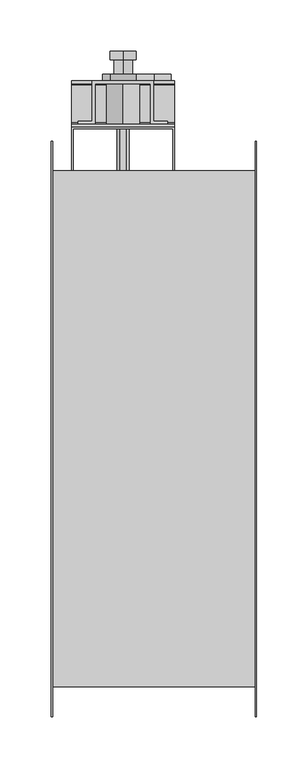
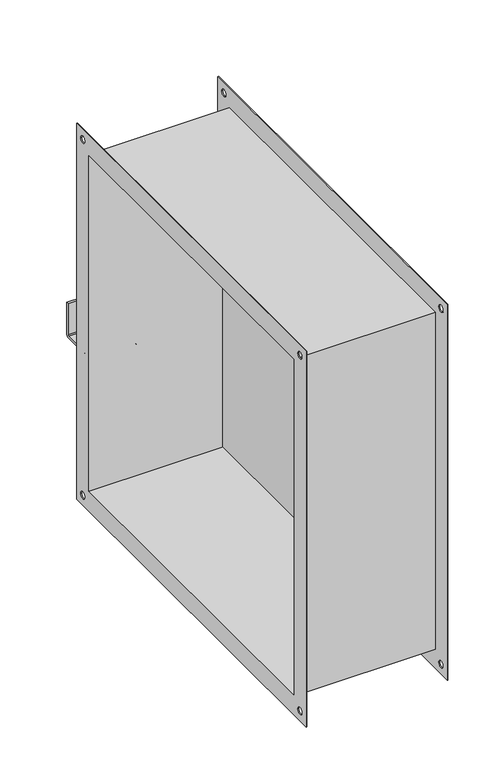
"""IFC4 building model written with IfcOpenShell, lengths in millimetres: damper geometry, СВ_КлапанПротивопожарный_КДМ-2М-3_НЗ_КанальныйПрямоугольный_СВОК : КДМ-2М_Привод ЭМ."""

from ifc_helpers import new_model, si_unit, frame, origin, place, context, project, spatial, polyline, circle_curve, outline, extrude, source, transform, mapped, element, save
from ifc_brep_helpers import plane_surface, cylinder_surface, revolved_surface, advanced_brep


def damper_f3751903(model_context):
    return source(origin(), model_context, "Body", "SolidModel", [
        extrude(outline(polyline([(88.8, -250.0), (88.8, 250.0), (90.0, 250.0), (90.0, -250.0), (88.8, -250.0)])), frame((0.0, 0.0, -250.0), z_axis=(0.0, 0.0, 1.0), x_axis=(1.0, 0.0, 0.0)), (0.0, 0.0, 1.0), 500.0),
        extrude(outline(polyline([(-78.8298911, 251.2), (-80.0298911, 251.2), (-80.0298911, 293.2), (20.0, 293.2), (20.0, 251.2), (18.8, 251.2), (18.8, 292.0), (-78.8298911, 292.0), (-78.8298911, 251.2)])), frame((0.0, 0.0, -80.0), z_axis=(0.0, 0.0, 1.0), x_axis=(1.0, 0.0, 0.0)), (0.0, 0.0, 1.0), 162.5),
        advanced_brep(
        [(-30.0, 367.2, 65.8717586), (-30.0, 367.2, 53.0), (-30.0, 367.2, 40.1282414), (-30.0, 359.322975, 65.8717586), (-30.0, 359.322975, 40.1282414), (-30.0, 359.322975, 62.0972194), (-30.0, 359.322975, 43.9027806), (-30.0, 345.2, 62.0972194), (-30.0, 345.2, 43.9027806), (-30.0, 345.2, 53.0)],
        [
            (0, 1),
            (1, 2),
            (2, 0, circle_curve(frame((-30.0, 367.2, 53.0), z_axis=(0.0, 1.0, 0.0), x_axis=(0.0, 0.0, -1.0)), 12.8717586)),
            (0, 2, circle_curve(frame((-30.0, 367.2, 53.0), z_axis=(0.0, 1.0, 0.0), x_axis=(0.0, 0.0, -1.0)), 12.8717586)),
            (3, 0),
            (2, 4),
            (4, 3, circle_curve(frame((-30.0, 359.322975, 53.0), z_axis=(0.0, 1.0, 0.0), x_axis=(0.0, 0.0, -1.0)), 12.8717586)),
            (3, 4, circle_curve(frame((-30.0, 359.322975, 53.0), z_axis=(0.0, 1.0, 0.0), x_axis=(0.0, 0.0, -1.0)), 12.8717586)),
            (5, 3),
            (4, 6),
            (6, 5, circle_curve(frame((-30.0, 359.322975, 53.0), z_axis=(0.0, 1.0, 0.0), x_axis=(0.0, 0.0, -1.0)), 9.0972194)),
            (5, 6, circle_curve(frame((-30.0, 359.322975, 53.0), z_axis=(0.0, 1.0, 0.0), x_axis=(0.0, 0.0, -1.0)), 9.0972194)),
            (7, 5),
            (6, 8),
            (8, 7, circle_curve(frame((-30.0, 345.2, 53.0), z_axis=(0.0, 1.0, 0.0), x_axis=(0.0, 0.0, -1.0)), 9.0972194)),
            (7, 8, circle_curve(frame((-30.0, 345.2, 53.0), z_axis=(0.0, 1.0, 0.0), x_axis=(0.0, 0.0, -1.0)), 9.0972194)),
            (9, 7),
            (8, 9),
        ],
        [
            plane_surface(frame((-30.0, 367.2, 53.0), z_axis=(0.0, 1.0, 0.0), x_axis=(0.0, 0.0, -1.0))),
            cylinder_surface(frame((-30.0, 345.2, 53.0), z_axis=(0.0, -1.0, 0.0), x_axis=(0.0, 0.0, -1.0)), 12.8717586),
            plane_surface(frame((-30.0, 359.322975, 53.0), z_axis=(0.0, -1.0, 0.0), x_axis=(0.0, 0.0, -1.0))),
            cylinder_surface(frame((-30.0, 345.2, 53.0), z_axis=(0.0, -1.0, 0.0), x_axis=(0.0, 0.0, -1.0)), 9.0972194),
            plane_surface(frame((-30.0, 345.2, 53.0), z_axis=(0.0, -1.0, 0.0), x_axis=(0.0, 0.0, -1.0))),
        ],
        [
            (0, [[1, 2, 3]]),
            (0, [[-2, -1, 4]]),
            (1, [[5, -3, 6, 7]]),
            (1, [[-6, -4, -5, 8]]),
            (2, [[9, -7, 10, 11]]),
            (2, [[-10, -8, -9, 12]]),
            (3, [[13, -11, 14, 15]]),
            (3, [[-14, -12, -13, 16]]),
            (4, [[17, -15, 18]]),
            (4, [[-18, -16, -17]]),
        ],
    ),
        advanced_brep(
        [(-60.37371, 338.6632523, 70.900028), (-60.37371, 299.2, 70.900028), (-73.9362537, 299.2, 70.900028), (-73.9362537, 296.2, 70.900028), (-57.37371, 296.2, 70.900028), (-57.37371, 335.6632523, 70.900028), (-30.37371, 335.6632523, 70.900028), (-3.37371, 335.6632523, 70.900028), (-3.37371, 296.2, 70.900028), (13.1888336, 296.2, 70.900028), (13.1888336, 299.2, 70.900028), (-0.37371, 299.2, 70.900028), (-0.37371, 338.6632523, 70.900028), (-60.37371, 338.6632523, 35.2906263), (-42.4468236, 338.6632523, 35.2906263), (-30.37371, 338.6632523, 35.2906263), (-17.5531764, 338.6632523, 35.2906263), (-0.37371, 338.6632523, 35.2906263), (-0.37371, 299.2, 35.2906263), (13.1888336, 299.2, 35.2906263), (13.1888336, 296.2, 35.2906263), (-3.37371, 296.2, 35.2906263), (-3.37371, 335.6632523, 35.2906263), (-30.37371, 335.6632523, 35.2906263), (-57.37371, 335.6632523, 35.2906263), (-57.37371, 296.2, 35.2906263), (-73.9362537, 296.2, 35.2906263), (-73.9362537, 299.2, 35.2906263), (-60.37371, 299.2, 35.2906263), (-30.37371, 335.6632523, 68.9846504), (-30.0, 335.6632523, 68.9890183), (-30.0, 335.6632523, 37.0109817), (-30.37371, 335.6632523, 37.0153496), (-42.4468236, 345.2, 53.0), (-17.5531764, 345.2, 53.0), (-17.5531764, 345.2, 3.0), (-22.3466574, 345.2, 3.0), (-22.3466574, 345.2, -19.7841255), (0.2857987, 345.2, -42.6282215), (16.7904973, 345.2, -42.6282215), (16.7904973, 345.2, -50.5836838), (-21.6781206, 345.2, -68.1864324), (-42.4468236, 345.2, -34.345078), (-38.4852814, 345.2, -50.0), (-35.9954463, 345.2, -52.4898351), (-35.9954463, 345.2, -55.9954463), (-32.4898351, 345.2, -55.9954463), (-30.0, 345.2, -58.4852814), (-27.5101649, 345.2, -55.9954463), (-24.0045537, 345.2, -55.9954463), (-24.0045537, 345.2, -52.4898351), (-21.5147186, 345.2, -50.0), (-24.0045537, 345.2, -47.5101649), (-24.0045537, 345.2, -44.0045537), (-27.5101649, 345.2, -44.0045537), (-30.0, 345.2, -41.5147186), (-32.4898351, 345.2, -44.0045537), (-35.9954463, 345.2, -44.0045537), (-35.9954463, 345.2, -47.5101649), (-17.5531764, 338.6632523, 3.0), (-42.4468236, 338.6632523, -29.3568384), (-6.6455014, 338.6632523, -29.3568384), (-22.3466574, 338.6632523, -19.7841255), (-22.3466574, 338.6632523, 3.0), (-42.4468236, 338.6632523, 53.0), (-17.5531764, 338.6632523, 53.0), (-21.6781206, 338.6632523, -68.1864324), (-42.4468236, 338.6632523, -34.345078), (16.7904973, 338.6632523, -42.6282215), (16.7904973, 338.6632523, -50.5836838), (0.2857987, 338.6632523, -42.6282215), (-30.0, 335.6632523, -65.9890183), (-30.0, 335.6632523, -34.0109817), (-30.0, 296.2, -34.0109817), (-30.0, 296.2, -65.9890183), (-30.0, 296.2, 37.0109817), (-30.0, 296.2, 68.9890183), (20.0, 293.2, -75.5), (20.0, 297.7, -80.0), (20.0, 334.1337407, -80.0), (20.0, 338.6632523, -75.4704884), (20.0, 338.6632523, -29.3568384), (20.0, 335.6632523, -29.3568384), (20.0, 335.6632523, -75.4704884), (20.0, 334.1337407, -77.0), (20.0, 297.7, -77.0), (20.0, 296.2, -75.5), (20.0, 296.2, 82.5), (20.0, 293.2, 82.5), (-80.0, 293.2, -75.5), (-80.0, 293.2, 82.5), (-80.0, 296.2, 82.5), (-80.0, 296.2, -75.5), (-80.0, 297.7, -77.0), (-80.0, 334.1337407, -77.0), (-80.0, 335.6632523, -75.4704884), (-80.0, 335.6632523, -29.3568384), (-80.0, 338.6632523, -29.3568384), (-80.0, 338.6632523, -75.4704884), (-80.0, 334.1337407, -80.0), (-80.0, 297.7, -80.0), (-35.9954463, 293.2, -47.5101649), (-35.9954463, 293.2, -44.0045537), (-32.4898351, 293.2, -44.0045537), (-30.0, 293.2, -41.5147186), (-27.5101649, 293.2, -44.0045537), (-24.0045537, 293.2, -44.0045537), (-24.0045537, 293.2, -47.5101649), (-21.5147186, 293.2, -50.0), (-24.0045537, 293.2, -52.4898351), (-24.0045537, 293.2, -55.9954463), (-27.5101649, 293.2, -55.9954463), (-30.0, 293.2, -58.4852814), (-32.4898351, 293.2, -55.9954463), (-35.9954463, 293.2, -55.9954463), (-35.9954463, 293.2, -52.4898351), (-38.4852814, 293.2, -50.0)],
        [
            (0, 1),
            (1, 2),
            (2, 3),
            (3, 4),
            (4, 5),
            (5, 6),
            (6, 7),
            (7, 8),
            (8, 9),
            (9, 10),
            (10, 11),
            (11, 12),
            (12, 0),
            (13, 14),
            (14, 15),
            (15, 16),
            (16, 17),
            (17, 18),
            (18, 19),
            (19, 20),
            (20, 21),
            (21, 22),
            (22, 23),
            (23, 24),
            (24, 25),
            (25, 26),
            (26, 27),
            (27, 28),
            (28, 13),
            (11, 18),
            (17, 12),
            (10, 19),
            (9, 20),
            (7, 22),
            (21, 8),
            (6, 29),
            (29, 30, circle_curve(frame((-30.0, 335.6632523, 53.0), z_axis=(0.0, 1.0, 0.0), x_axis=(0.0, 0.0, 1.0)), 15.9890183)),
            (30, 31, circle_curve(frame((-30.0, 335.6632523, 53.0), z_axis=(0.0, 1.0, 0.0), x_axis=(0.0, 0.0, 1.0)), 15.9890183)),
            (31, 32, circle_curve(frame((-30.0, 335.6632523, 53.0), z_axis=(0.0, 1.0, 0.0), x_axis=(0.0, 0.0, 1.0)), 15.9890183)),
            (32, 23),
            (5, 24),
            (32, 29, circle_curve(frame((-30.0, 335.6632523, 53.0), z_axis=(0.0, 1.0, 0.0), x_axis=(0.0, 0.0, 1.0)), 15.9890183)),
            (4, 25),
            (2, 27),
            (26, 3),
            (1, 28),
            (0, 13),
            (33, 34, circle_curve(frame((-30.0, 345.2, 53.0), z_axis=(0.0, 1.0, 0.0), x_axis=(0.0, 0.0, 1.0)), 12.4468236)),
            (34, 35),
            (35, 36),
            (36, 37),
            (37, 38, circle_curve(frame((-30.0, 345.2, -50.0), z_axis=(0.0, 1.0, 0.0), x_axis=(0.0, 0.0, 1.0)), 31.1700613)),
            (38, 39),
            (39, 40),
            (40, 41),
            (41, 42, circle_curve(frame((-30.0, 345.2, -50.0), z_axis=(0.0, 1.0, 0.0), x_axis=(0.0, 0.0, 1.0)), 20.0)),
            (42, 33),
            (43, 44),
            (44, 45),
            (45, 46),
            (46, 47),
            (47, 48),
            (48, 49),
            (49, 50),
            (50, 51),
            (51, 52),
            (52, 53),
            (53, 54),
            (54, 55),
            (55, 56),
            (56, 57),
            (57, 58),
            (58, 43),
            (59, 16),
            (14, 60),
            (60, 61),
            (61, 62, circle_curve(frame((-30.0, 338.6632523, -50.0), z_axis=(0.0, -1.0, 0.0), x_axis=(0.0, 0.0, 1.0)), 31.1700613)),
            (62, 63),
            (63, 59),
            (33, 64),
            (64, 65, circle_curve(frame((-30.0, 338.6632523, 53.0), z_axis=(0.0, 1.0, 0.0), x_axis=(0.0, 0.0, 1.0)), 12.4468236)),
            (65, 34),
            (41, 66),
            (66, 67, circle_curve(frame((-30.0, 338.6632523, -50.0), z_axis=(0.0, 1.0, 0.0), x_axis=(0.0, 0.0, 1.0)), 20.0)),
            (67, 42),
            (67, 60),
            (14, 64),
            (39, 68),
            (68, 69),
            (69, 40),
            (38, 70),
            (70, 68),
            (37, 62),
            (61, 70, circle_curve(frame((-30.0, 338.6632523, -50.0), z_axis=(0.0, 1.0, 0.0), x_axis=(0.0, 0.0, 1.0)), 31.1700613)),
            (36, 63),
            (35, 59),
            (65, 16),
            (71, 72, circle_curve(frame((-30.0, 335.6632523, -50.0), z_axis=(0.0, -1.0, 0.0), x_axis=(0.0, 0.0, 1.0)), 15.9890183)),
            (72, 73),
            (73, 74, circle_curve(frame((-30.0, 296.2, -50.0), z_axis=(0.0, 1.0, 0.0), x_axis=(0.0, 0.0, 1.0)), 15.9890183)),
            (74, 71),
            (74, 73, circle_curve(frame((-30.0, 296.2, -50.0), z_axis=(0.0, 1.0, 0.0), x_axis=(0.0, 0.0, 1.0)), 15.9890183)),
            (72, 71, circle_curve(frame((-30.0, 335.6632523, -50.0), z_axis=(0.0, -1.0, 0.0), x_axis=(0.0, 0.0, 1.0)), 15.9890183)),
            (75, 31),
            (30, 76),
            (76, 75, circle_curve(frame((-30.0, 296.2, 53.0), z_axis=(0.0, 1.0, 0.0), x_axis=(0.0, 0.0, 1.0)), 15.9890183)),
            (75, 76, circle_curve(frame((-30.0, 296.2, 53.0), z_axis=(0.0, 1.0, 0.0), x_axis=(0.0, 0.0, 1.0)), 15.9890183)),
            (77, 78, circle_curve(frame((20.0, 297.7, -75.5), z_axis=(1.0, 0.0, 0.0), x_axis=(0.0, 0.0, 1.0)), 4.5)),
            (78, 79),
            (79, 80, circle_curve(frame((20.0, 334.1337407, -75.4704884), z_axis=(1.0, 0.0, 0.0), x_axis=(0.0, 0.0, 1.0)), 4.5295116)),
            (80, 81),
            (81, 82),
            (82, 83),
            (83, 84, circle_curve(frame((20.0, 334.1337407, -75.4704884), z_axis=(-1.0, 0.0, 0.0), x_axis=(0.0, 0.0, 1.0)), 1.5295116)),
            (84, 85),
            (85, 86, circle_curve(frame((20.0, 297.7, -75.5), z_axis=(-1.0, 0.0, 0.0), x_axis=(0.0, 0.0, 1.0)), 1.5)),
            (86, 87),
            (87, 88),
            (88, 77),
            (89, 90),
            (90, 91),
            (91, 92),
            (92, 93, circle_curve(frame((-80.0, 297.7, -75.5), z_axis=(1.0, 0.0, 0.0), x_axis=(0.0, 0.0, 1.0)), 1.5)),
            (93, 94),
            (94, 95, circle_curve(frame((-80.0, 334.1337407, -75.4704884), z_axis=(1.0, 0.0, 0.0), x_axis=(0.0, 0.0, 1.0)), 1.5295116)),
            (95, 96),
            (96, 97),
            (97, 98),
            (98, 99, circle_curve(frame((-80.0, 334.1337407, -75.4704884), z_axis=(-1.0, 0.0, 0.0), x_axis=(0.0, 0.0, 1.0)), 4.5295116)),
            (99, 100),
            (100, 89, circle_curve(frame((-80.0, 297.7, -75.5), z_axis=(-1.0, 0.0, 0.0), x_axis=(0.0, 0.0, 1.0)), 4.5)),
            (88, 90),
            (89, 77),
            (101, 102),
            (102, 103),
            (103, 104),
            (104, 105),
            (105, 106),
            (106, 107),
            (107, 108),
            (108, 109),
            (109, 110),
            (110, 111),
            (111, 112),
            (112, 113),
            (113, 114),
            (114, 115),
            (115, 116),
            (116, 101),
            (87, 91),
            (86, 92),
            (85, 93),
            (84, 94),
            (83, 95),
            (82, 96),
            (81, 61),
            (60, 97),
            (80, 98),
            (66, 69),
            (79, 99),
            (78, 100),
            (116, 43),
            (58, 101),
            (115, 44),
            (114, 45),
            (113, 46),
            (112, 47),
            (111, 48),
            (110, 49),
            (109, 50),
            (108, 51),
            (107, 52),
            (106, 53),
            (105, 54),
            (104, 55),
            (103, 56),
            (102, 57),
        ],
        [
            plane_surface(frame((-60.37371, 338.6632523, 70.900028), z_axis=(0.0, 0.0, 1.0), x_axis=(1.0, 0.0, 0.0))),
            plane_surface(frame((-60.37371, 338.6632523, 35.2906263), z_axis=(0.0, 0.0, -1.0), x_axis=(-1.0, 0.0, 0.0))),
            plane_surface(frame((-0.37371, 338.6632523, 70.900028), z_axis=(1.0, 0.0, 0.0), x_axis=(0.0, 0.0, -1.0))),
            plane_surface(frame((-0.37371, 299.2, 70.900028), z_axis=(0.0, 1.0, 0.0), x_axis=(0.0, 0.0, -1.0))),
            plane_surface(frame((13.1888336, 299.2, 70.900028), z_axis=(1.0, 0.0, 0.0), x_axis=(0.0, 0.0, -1.0))),
            plane_surface(frame((-3.37371, 296.2, 70.900028), z_axis=(-1.0, 0.0, 0.0), x_axis=(0.0, 0.0, -1.0))),
            plane_surface(frame((-3.37371, 335.6632523, 70.900028), z_axis=(0.0, -1.0, 0.0), x_axis=(0.0, 0.0, -1.0))),
            plane_surface(frame((-30.37371, 335.6632523, 70.900028), z_axis=(0.0, -1.0, 0.0), x_axis=(0.0, 0.0, -1.0))),
            plane_surface(frame((-57.37371, 335.6632523, 70.900028), z_axis=(1.0, 0.0, 0.0), x_axis=(0.0, 0.0, -1.0))),
            plane_surface(frame((-73.9362537, 296.2, 70.900028), z_axis=(-1.0, 0.0, 0.0), x_axis=(0.0, 0.0, -1.0))),
            plane_surface(frame((-73.9362537, 299.2, 70.900028), z_axis=(0.0, 1.0, 0.0), x_axis=(0.0, 0.0, -1.0))),
            plane_surface(frame((-60.37371, 299.2, 70.900028), z_axis=(-1.0, 0.0, 0.0), x_axis=(0.0, 0.0, -1.0))),
            plane_surface(frame((-42.4468236, 345.2, 53.0), z_axis=(0.0, 1.0, 0.0), x_axis=(0.0, 0.0, -1.0))),
            plane_surface(frame((-42.4468236, 338.6632523, 53.0), z_axis=(0.0, -1.0, 0.0), x_axis=(0.0, 0.0, 1.0))),
            cylinder_surface(frame((-30.0, 338.6632523, 53.0), z_axis=(0.0, 1.0, 0.0), x_axis=(0.0, 0.0, 1.0)), 12.4468236),
            cylinder_surface(frame((-30.0, 338.6632523, -50.0), z_axis=(0.0, 1.0, 0.0), x_axis=(0.0, 0.0, 1.0)), 20.0),
            plane_surface(frame((-42.4468236, 345.2, 53.0), z_axis=(-1.0, 0.0, 0.0), x_axis=(0.0, -1.0, 0.0))),
            plane_surface(frame((16.7904973, 345.2, -50.5836838), z_axis=(1.0, 0.0, 0.0), x_axis=(0.0, -1.0, 0.0))),
            plane_surface(frame((16.7904973, 345.2, -42.6282215), z_axis=(0.0, 0.0, 1.0), x_axis=(0.0, -1.0, 0.0))),
            cylinder_surface(frame((-30.0, 338.6632523, -50.0), z_axis=(0.0, 1.0, 0.0), x_axis=(0.0, 0.0, 1.0)), 31.1700613),
            plane_surface(frame((-22.3466574, 345.2, -19.7841255), z_axis=(1.0, 0.0, 0.0), x_axis=(0.0, -1.0, 0.0))),
            plane_surface(frame((-22.3466574, 345.2, 3.0), z_axis=(0.0, 0.0, -1.0), x_axis=(0.0, -1.0, 0.0))),
            plane_surface(frame((-17.5531764, 345.2, 3.0), z_axis=(1.0, 0.0, 0.0), x_axis=(0.0, -1.0, 0.0))),
            plane_surface(frame((-30.0, 338.6632523, -34.0109817), z_axis=(0.0, 1.0, 0.0), x_axis=(-1.0, 0.0, 0.0))),
            cylinder_surface(frame((-30.0, 296.2, -50.0), z_axis=(0.0, 1.0, 0.0), x_axis=(0.0, 0.0, 1.0)), 15.9890183),
            cylinder_surface(frame((-30.0, 251.2, 53.0), z_axis=(0.0, 1.0, 0.0), x_axis=(0.0, 0.0, 1.0)), 15.9890183),
            plane_surface(frame((20.0, 293.2, 82.5), z_axis=(1.0, 0.0, 0.0), x_axis=(0.0, 0.0, 1.0))),
            plane_surface(frame((-80.0, 293.2, 82.5), z_axis=(-1.0, 0.0, 0.0), x_axis=(0.0, 0.0, -1.0))),
            plane_surface(frame((20.0, 293.2, -75.5), z_axis=(0.0, -1.0, 0.0), x_axis=(-1.0, 0.0, 0.0))),
            plane_surface(frame((20.0, 293.2, 82.5), z_axis=(0.0, 0.0, 1.0), x_axis=(-1.0, 0.0, 0.0))),
            plane_surface(frame((20.0, 296.2, 82.5), z_axis=(0.0, 1.0, 0.0), x_axis=(-1.0, 0.0, 0.0))),
            revolved_surface(polyline([(-80.0, 297.7, -74.0), (20.0, 297.7, -74.0)]), (-80.0, 297.7, -75.5), (-1.0, 0.0, 0.0)),
            plane_surface(frame((20.0, 297.7, -77.0), z_axis=(0.0, 0.0, 1.0), x_axis=(-1.0, 0.0, 0.0))),
            revolved_surface(polyline([(-80.0, 334.1337407, -73.94097679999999), (20.0, 334.1337407, -73.94097679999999)]), (-80.0, 334.1337407, -75.4704884), (-1.0, 0.0, 0.0)),
            plane_surface(frame((20.0, 335.6632523, -75.4704884), z_axis=(0.0, -1.0, 0.0), x_axis=(-1.0, 0.0, 0.0))),
            plane_surface(frame((20.0, 335.6632523, -29.3568384), z_axis=(0.0, 0.0, 1.0), x_axis=(-1.0, 0.0, 0.0))),
            plane_surface(frame((20.0, 338.6632523, -29.3568384), z_axis=(0.0, 1.0, 0.0), x_axis=(-1.0, 0.0, 0.0))),
            cylinder_surface(frame((-80.0, 334.1337407, -75.4704884), z_axis=(1.0, 0.0, 0.0), x_axis=(0.0, 0.0, 1.0)), 4.5295116),
            plane_surface(frame((20.0, 334.1337407, -80.0), z_axis=(0.0, 0.0, -1.0), x_axis=(-1.0, 0.0, 0.0))),
            cylinder_surface(frame((-80.0, 297.7, -75.5), z_axis=(1.0, 0.0, 0.0), x_axis=(0.0, 0.0, 1.0)), 4.5),
            plane_surface(frame((-21.6781206, 345.2, -68.1864324), z_axis=(0.41609396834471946, 0.0, -0.909321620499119), x_axis=(0.0, -1.0, 0.0))),
            plane_surface(frame((-35.9954463, 351.2, -47.5101649), z_axis=(0.7071067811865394, 0.0, -0.7071067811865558), x_axis=(0.0, -1.0, 0.0))),
            plane_surface(frame((-38.4852814, 351.2, -50.0), z_axis=(0.7071067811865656, 0.0, 0.7071067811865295), x_axis=(0.0, -1.0, 0.0))),
            plane_surface(frame((-35.9954463, 351.2, -52.4898351), z_axis=(1.0, 0.0, 0.0), x_axis=(0.0, -1.0, 0.0))),
            plane_surface(frame((-35.9954463, 351.2, -55.9954463), z_axis=(0.0, 0.0, 1.0), x_axis=(0.0, -1.0, 0.0))),
            plane_surface(frame((-32.4898351, 351.2, -55.9954463), z_axis=(0.707106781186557, 0.0, 0.707106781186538), x_axis=(0.0, -1.0, 0.0))),
            plane_surface(frame((-30.0, 351.2, -58.4852814), z_axis=(-0.7071067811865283, 0.0, 0.7071067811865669), x_axis=(0.0, -1.0, 0.0))),
            plane_surface(frame((-27.5101649, 351.2, -55.9954463), z_axis=(0.0, 0.0, 1.0), x_axis=(0.0, -1.0, 0.0))),
            plane_surface(frame((-24.0045537, 351.2, -55.9954463), z_axis=(-1.0, 0.0, 0.0), x_axis=(0.0, -1.0, 0.0))),
            plane_surface(frame((-24.0045537, 351.2, -52.4898351), z_axis=(-0.7071067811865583, 0.0, 0.7071067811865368), x_axis=(0.0, -1.0, 0.0))),
            plane_surface(frame((-21.5147186, 351.2, -50.0), z_axis=(-0.7071067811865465, 0.0, -0.7071067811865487), x_axis=(0.0, -1.0, 0.0))),
            plane_surface(frame((-24.0045537, 351.2, -47.5101649), z_axis=(-1.0, 0.0, 0.0), x_axis=(0.0, -1.0, 0.0))),
            plane_surface(frame((-24.0045537, 351.2, -44.0045537), z_axis=(0.0, 0.0, -1.0), x_axis=(0.0, -1.0, 0.0))),
            plane_surface(frame((-27.5101649, 351.2, -44.0045537), z_axis=(-0.7071067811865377, 0.0, -0.7071067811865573), x_axis=(0.0, -1.0, 0.0))),
            plane_surface(frame((-30.0, 351.2, -41.5147186), z_axis=(0.7071067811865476, 0.0, -0.7071067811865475), x_axis=(0.0, -1.0, 0.0))),
            plane_surface(frame((-32.4898351, 351.2, -44.0045537), z_axis=(0.0, 0.0, -1.0), x_axis=(0.0, -1.0, 0.0))),
            plane_surface(frame((-35.9954463, 351.2, -44.0045537), z_axis=(1.0, 0.0, 0.0), x_axis=(0.0, -1.0, 0.0))),
        ],
        [
            (0, [[1, 2, 3, 4, 5, 6, 7, 8, 9, 10, 11, 12, 13]]),
            (1, [[14, 15, 16, 17, 18, 19, 20, 21, 22, 23, 24, 25, 26, 27, 28, 29]]),
            (2, [[30, -18, 31, -12]]),
            (3, [[32, -19, -30, -11]]),
            (4, [[33, -20, -32, -10]]),
            (5, [[34, -22, 35, -8]]),
            (6, [[36, 37, 38, 39, 40, -23, -34, -7]]),
            (7, [[41, -24, -40, 42, -36, -6]]),
            (8, [[43, -25, -41, -5]]),
            (9, [[44, -27, 45, -3]]),
            (10, [[46, -28, -44, -2]]),
            (11, [[47, -29, -46, -1]]),
            (12, [[48, 49, 50, 51, 52, 53, 54, 55, 56, 57], [58, 59, 60, 61, 62, 63, 64, 65, 66, 67, 68, 69, 70, 71, 72, 73]]),
            (13, [[74, -16, -15, 75, 76, 77, 78, 79]]),
            (14, [[80, 81, 82, -48]]),
            (15, [[83, 84, 85, -56]]),
            (16, [[-85, 86, -75, 87, -80, -57]]),
            (17, [[88, 89, 90, -54]]),
            (18, [[91, 92, -88, -53]]),
            (19, [[93, -77, 94, -91, -52]]),
            (20, [[95, -78, -93, -51]]),
            (21, [[96, -79, -95, -50]]),
            (22, [[-82, 97, -74, -96, -49]]),
            (23, [[-97, -81, -87, -14, -47, -13, -31, -17]]),
            (24, [[98, 99, 100, 101]]),
            (24, [[102, -99, 103, -101]]),
            (25, [[104, -38, 105, 106]]),
            (25, [[-105, -37, -42, -39, -104, 107]]),
            (26, [[108, 109, 110, 111, 112, 113, 114, 115, 116, 117, 118, 119]]),
            (27, [[120, 121, 122, 123, 124, 125, 126, 127, 128, 129, 130, 131]]),
            (28, [[132, -120, 133, -119], [134, 135, 136, 137, 138, 139, 140, 141, 142, 143, 144, 145, 146, 147, 148, 149]]),
            (29, [[150, -121, -132, -118]]),
            (30, [[151, -122, -150, -117], [-102, -100], [-107, -106], [-35, -21, -33, -9], [-45, -26, -43, -4]]),
            (31, [[152, -123, -151, -116]]),
            (32, [[153, -124, -152, -115]]),
            (33, [[154, -125, -153, -114]]),
            (34, [[155, -126, -154, -113], [-103, -98]]),
            (35, [[156, -76, 157, -127, -155, -112]]),
            (36, [[158, -128, -157, -86, -84, 159, -89, -92, -94, -156, -111]]),
            (37, [[160, -129, -158, -110]]),
            (38, [[161, -130, -160, -109]]),
            (39, [[-133, -131, -161, -108]]),
            (40, [[-90, -159, -83, -55]]),
            (41, [[-149, 162, -73, 163]]),
            (42, [[-148, 164, -58, -162]]),
            (43, [[-147, 165, -59, -164]]),
            (44, [[-146, 166, -60, -165]]),
            (45, [[-145, 167, -61, -166]]),
            (46, [[-144, 168, -62, -167]]),
            (47, [[-143, 169, -63, -168]]),
            (48, [[-142, 170, -64, -169]]),
            (49, [[-141, 171, -65, -170]]),
            (50, [[-140, 172, -66, -171]]),
            (51, [[-139, 173, -67, -172]]),
            (52, [[-138, 174, -68, -173]]),
            (53, [[-137, 175, -69, -174]]),
            (54, [[-136, 176, -70, -175]]),
            (55, [[-135, 177, -71, -176]]),
            (56, [[-72, -177, -134, -163]]),
        ],
    ),
        extrude(outline(polyline([(-44.8167305, -27.0074379), (-44.8167305, -32.9925621), (-50.0, -35.9851241), (-55.1832695, -32.9925621), (-55.1832695, -27.0074379), (-50.0, -24.0148759), (-44.8167305, -27.0074379)])), frame((0.0, 251.2, 0.0), z_axis=(0.0, 1.0, 0.0), x_axis=(0.0, 0.0, 1.0)), (0.0, 0.0, 1.0), 100.0),
        advanced_brep(
        [(98.8, -280.0, 280.0), (98.8, 280.0, 280.0), (98.8, 280.0, -280.0), (98.8, -280.0, -280.0), (98.8, 251.2, 251.2), (98.8, -251.2, 251.2), (98.8, -251.2, -251.2), (98.8, 251.2, -251.2), (98.8, 260.0, 265.0), (98.8, 270.0, 265.0), (98.8, -270.0, 265.0), (98.8, -260.0, 265.0), (98.8, -270.0, -265.0), (98.8, -260.0, -265.0), (98.8, 260.0, -265.0), (98.8, 270.0, -265.0), (100.0, -280.0, 280.0), (100.0, -280.0, -280.0), (100.0, 280.0, -280.0), (100.0, 280.0, 280.0), (100.0, -250.0, 250.0), (100.0, 250.0, 250.0), (100.0, 250.0, -250.0), (100.0, -250.0, -250.0), (100.0, 270.0, 265.0), (100.0, 260.0, 265.0), (100.0, -260.0, 265.0), (100.0, -270.0, 265.0), (100.0, -260.0, -265.0), (100.0, -270.0, -265.0), (100.0, 270.0, -265.0), (100.0, 260.0, -265.0), (-100.0, -280.0, 280.0), (-100.0, 280.0, 280.0), (-100.0, 280.0, -280.0), (-100.0, -280.0, -280.0), (-100.0, -250.0, 250.0), (-100.0, -250.0, -250.0), (-100.0, 250.0, -250.0), (-100.0, 250.0, 250.0), (-100.0, 260.0, 265.0), (-100.0, 270.0, 265.0), (-100.0, -270.0, 265.0), (-100.0, -260.0, 265.0), (-100.0, -270.0, -265.0), (-100.0, -260.0, -265.0), (-100.0, 260.0, -265.0), (-100.0, 270.0, -265.0), (-98.8, -280.0, 280.0), (-98.8, -280.0, -280.0), (-98.8, 280.0, -280.0), (-98.8, 280.0, 280.0), (-98.8, -251.2, 251.2), (-98.8, 251.2, 251.2), (-98.8, 251.2, -251.2), (-98.8, -251.2, -251.2), (-98.8, 270.0, 265.0), (-98.8, 260.0, 265.0), (-98.8, -260.0, 265.0), (-98.8, -270.0, 265.0), (-98.8, -260.0, -265.0), (-98.8, -270.0, -265.0), (-98.8, 270.0, -265.0), (-98.8, 260.0, -265.0)],
        [
            (0, 1),
            (1, 2),
            (2, 3),
            (3, 0),
            (4, 5),
            (5, 6),
            (6, 7),
            (7, 4),
            (8, 9, circle_curve(frame((98.8, 265.0, 265.0), z_axis=(1.0, 0.0, 0.0), x_axis=(0.0, 1.0, 0.0)), 5.0)),
            (9, 8, circle_curve(frame((98.8, 265.0, 265.0), z_axis=(1.0, 0.0, 0.0), x_axis=(0.0, 1.0, 0.0)), 5.0)),
            (10, 11, circle_curve(frame((98.8, -265.0, 265.0), z_axis=(1.0, 0.0, 0.0), x_axis=(0.0, 1.0, 0.0)), 5.0)),
            (11, 10, circle_curve(frame((98.8, -265.0, 265.0), z_axis=(1.0, 0.0, 0.0), x_axis=(0.0, 1.0, 0.0)), 5.0)),
            (12, 13, circle_curve(frame((98.8, -265.0, -265.0), z_axis=(1.0, 0.0, 0.0), x_axis=(0.0, 1.0, 0.0)), 5.0)),
            (13, 12, circle_curve(frame((98.8, -265.0, -265.0), z_axis=(1.0, 0.0, 0.0), x_axis=(0.0, 1.0, 0.0)), 5.0)),
            (14, 15, circle_curve(frame((98.8, 265.0, -265.0), z_axis=(1.0, 0.0, 0.0), x_axis=(0.0, 1.0, 0.0)), 5.0)),
            (15, 14, circle_curve(frame((98.8, 265.0, -265.0), z_axis=(1.0, 0.0, 0.0), x_axis=(0.0, 1.0, 0.0)), 5.0)),
            (16, 17),
            (17, 18),
            (18, 19),
            (19, 16),
            (20, 21),
            (21, 22),
            (22, 23),
            (23, 20),
            (24, 25, circle_curve(frame((100.0, 265.0, 265.0), z_axis=(-1.0, 0.0, 0.0), x_axis=(0.0, 1.0, 0.0)), 5.0)),
            (25, 24, circle_curve(frame((100.0, 265.0, 265.0), z_axis=(-1.0, 0.0, 0.0), x_axis=(0.0, 1.0, 0.0)), 5.0)),
            (26, 27, circle_curve(frame((100.0, -265.0, 265.0), z_axis=(-1.0, 0.0, 0.0), x_axis=(0.0, 1.0, 0.0)), 5.0)),
            (27, 26, circle_curve(frame((100.0, -265.0, 265.0), z_axis=(-1.0, 0.0, 0.0), x_axis=(0.0, 1.0, 0.0)), 5.0)),
            (28, 29, circle_curve(frame((100.0, -265.0, -265.0), z_axis=(-1.0, 0.0, 0.0), x_axis=(0.0, 1.0, 0.0)), 5.0)),
            (29, 28, circle_curve(frame((100.0, -265.0, -265.0), z_axis=(-1.0, 0.0, 0.0), x_axis=(0.0, 1.0, 0.0)), 5.0)),
            (30, 31, circle_curve(frame((100.0, 265.0, -265.0), z_axis=(-1.0, 0.0, 0.0), x_axis=(0.0, 1.0, 0.0)), 5.0)),
            (31, 30, circle_curve(frame((100.0, 265.0, -265.0), z_axis=(-1.0, 0.0, 0.0), x_axis=(0.0, 1.0, 0.0)), 5.0)),
            (32, 33),
            (33, 34),
            (34, 35),
            (35, 32),
            (36, 37),
            (37, 38),
            (38, 39),
            (39, 36),
            (40, 41, circle_curve(frame((-100.0, 265.0, 265.0), z_axis=(1.0, 0.0, 0.0), x_axis=(0.0, 1.0, 0.0)), 5.0)),
            (41, 40, circle_curve(frame((-100.0, 265.0, 265.0), z_axis=(1.0, 0.0, 0.0), x_axis=(0.0, 1.0, 0.0)), 5.0)),
            (42, 43, circle_curve(frame((-100.0, -265.0, 265.0), z_axis=(1.0, 0.0, 0.0), x_axis=(0.0, 1.0, 0.0)), 5.0)),
            (43, 42, circle_curve(frame((-100.0, -265.0, 265.0), z_axis=(1.0, 0.0, 0.0), x_axis=(0.0, 1.0, 0.0)), 5.0)),
            (44, 45, circle_curve(frame((-100.0, -265.0, -265.0), z_axis=(1.0, 0.0, 0.0), x_axis=(0.0, 1.0, 0.0)), 5.0)),
            (45, 44, circle_curve(frame((-100.0, -265.0, -265.0), z_axis=(1.0, 0.0, 0.0), x_axis=(0.0, 1.0, 0.0)), 5.0)),
            (46, 47, circle_curve(frame((-100.0, 265.0, -265.0), z_axis=(1.0, 0.0, 0.0), x_axis=(0.0, 1.0, 0.0)), 5.0)),
            (47, 46, circle_curve(frame((-100.0, 265.0, -265.0), z_axis=(1.0, 0.0, 0.0), x_axis=(0.0, 1.0, 0.0)), 5.0)),
            (48, 49),
            (49, 50),
            (50, 51),
            (51, 48),
            (52, 53),
            (53, 54),
            (54, 55),
            (55, 52),
            (56, 57, circle_curve(frame((-98.8, 265.0, 265.0), z_axis=(-1.0, 0.0, 0.0), x_axis=(0.0, 1.0, 0.0)), 5.0)),
            (57, 56, circle_curve(frame((-98.8, 265.0, 265.0), z_axis=(-1.0, 0.0, 0.0), x_axis=(0.0, 1.0, 0.0)), 5.0)),
            (58, 59, circle_curve(frame((-98.8, -265.0, 265.0), z_axis=(-1.0, 0.0, 0.0), x_axis=(0.0, 1.0, 0.0)), 5.0)),
            (59, 58, circle_curve(frame((-98.8, -265.0, 265.0), z_axis=(-1.0, 0.0, 0.0), x_axis=(0.0, 1.0, 0.0)), 5.0)),
            (60, 61, circle_curve(frame((-98.8, -265.0, -265.0), z_axis=(-1.0, 0.0, 0.0), x_axis=(0.0, 1.0, 0.0)), 5.0)),
            (61, 60, circle_curve(frame((-98.8, -265.0, -265.0), z_axis=(-1.0, 0.0, 0.0), x_axis=(0.0, 1.0, 0.0)), 5.0)),
            (62, 63, circle_curve(frame((-98.8, 265.0, -265.0), z_axis=(-1.0, 0.0, 0.0), x_axis=(0.0, 1.0, 0.0)), 5.0)),
            (63, 62, circle_curve(frame((-98.8, 265.0, -265.0), z_axis=(-1.0, 0.0, 0.0), x_axis=(0.0, 1.0, 0.0)), 5.0)),
            (4, 53),
            (52, 5),
            (55, 6),
            (54, 7),
            (35, 49),
            (48, 32),
            (34, 50),
            (33, 51),
            (20, 36),
            (39, 21),
            (38, 22),
            (37, 23),
            (3, 17),
            (16, 0),
            (2, 18),
            (1, 19),
            (8, 25),
            (24, 9),
            (40, 57),
            (56, 41),
            (10, 27),
            (26, 11),
            (42, 59),
            (58, 43),
            (12, 29),
            (28, 13),
            (44, 61),
            (60, 45),
            (14, 31),
            (30, 15),
            (46, 63),
            (62, 47),
        ],
        [
            plane_surface(frame((98.8, 250.0, 250.0), z_axis=(-1.0, 0.0, 0.0), x_axis=(0.0, -1.0, 0.0))),
            plane_surface(frame((100.0, 250.0, 250.0), z_axis=(1.0, 0.0, 0.0), x_axis=(0.0, 1.0, 0.0))),
            plane_surface(frame((-100.0, 250.0, 250.0), z_axis=(-1.0, 0.0, 0.0), x_axis=(0.0, -1.0, 0.0))),
            plane_surface(frame((-98.8, 250.0, 250.0), z_axis=(1.0, 0.0, 0.0), x_axis=(0.0, 1.0, 0.0))),
            plane_surface(frame((100.0, 251.2, 251.2), z_axis=(0.0, 0.0, 1.0), x_axis=(-1.0, 0.0, 0.0))),
            plane_surface(frame((100.0, -251.2, 251.2), z_axis=(0.0, -1.0, 0.0), x_axis=(-1.0, 0.0, 0.0))),
            plane_surface(frame((100.0, -251.2, -251.2), z_axis=(0.0, 0.0, -1.0), x_axis=(-1.0, 0.0, 0.0))),
            plane_surface(frame((100.0, 251.2, -251.2), z_axis=(0.0, 1.0, 0.0), x_axis=(-1.0, 0.0, 0.0))),
            plane_surface(frame((-98.8, -280.0, 280.0), z_axis=(0.0, -1.0, 0.0), x_axis=(-1.0, 0.0, 0.0))),
            plane_surface(frame((-98.8, -280.0, -280.0), z_axis=(0.0, 0.0, -1.0), x_axis=(-1.0, 0.0, 0.0))),
            plane_surface(frame((-98.8, 280.0, -280.0), z_axis=(0.0, 1.0, 0.0), x_axis=(-1.0, 0.0, 0.0))),
            plane_surface(frame((-98.8, 280.0, 280.0), z_axis=(0.0, 0.0, 1.0), x_axis=(-1.0, 0.0, 0.0))),
            plane_surface(frame((100.0, -250.0, 250.0), z_axis=(0.0, 0.0, -1.0), x_axis=(-1.0, 0.0, 0.0))),
            plane_surface(frame((100.0, 250.0, 250.0), z_axis=(0.0, -1.0, 0.0), x_axis=(-1.0, 0.0, 0.0))),
            plane_surface(frame((100.0, 250.0, -250.0), z_axis=(0.0, 0.0, 1.0), x_axis=(-1.0, 0.0, 0.0))),
            plane_surface(frame((100.0, -250.0, -250.0), z_axis=(0.0, 1.0, 0.0), x_axis=(-1.0, 0.0, 0.0))),
            plane_surface(frame((100.0, -280.0, 280.0), z_axis=(0.0, -1.0, 0.0), x_axis=(-1.0, 0.0, 0.0))),
            plane_surface(frame((100.0, -280.0, -280.0), z_axis=(0.0, 0.0, -1.0), x_axis=(-1.0, 0.0, 0.0))),
            plane_surface(frame((100.0, 280.0, -280.0), z_axis=(0.0, 1.0, 0.0), x_axis=(-1.0, 0.0, 0.0))),
            plane_surface(frame((100.0, 280.0, 280.0), z_axis=(0.0, 0.0, 1.0), x_axis=(-1.0, 0.0, 0.0))),
            revolved_surface(polyline([(100.0, 270.0, 265.0), (98.80000000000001, 270.0, 265.0)]), (-100.0, 265.0, 265.0), (1.0, 0.0, 0.0)),
            revolved_surface(polyline([(-98.8, 270.0, 265.0), (-100.0, 270.0, 265.0)]), (-100.0, 265.0, 265.0), (1.0, 0.0, 0.0)),
            revolved_surface(polyline([(100.0, -260.0, 265.0), (98.8, -260.0, 265.0)]), (-10.0, -265.0, 265.0), (1.0, 0.0, 0.0)),
            revolved_surface(polyline([(-98.8, -260.0, 265.0), (-100.0, -260.0, 265.0)]), (-10.0, -265.0, 265.0), (1.0, 0.0, 0.0)),
            revolved_surface(polyline([(100.0, -260.0, -265.0), (98.8, -260.0, -265.0)]), (-10.0, -265.0, -265.0), (1.0, 0.0, 0.0)),
            revolved_surface(polyline([(-98.8, -260.0, -265.0), (-100.0, -260.0, -265.0)]), (-10.0, -265.0, -265.0), (1.0, 0.0, 0.0)),
            revolved_surface(polyline([(100.0, 270.0, -265.0), (98.8, 270.0, -265.0)]), (-10.0, 265.0, -265.0), (1.0, 0.0, 0.0)),
            revolved_surface(polyline([(-98.8, 270.0, -265.0), (-100.0, 270.0, -265.0)]), (-10.0, 265.0, -265.0), (1.0, 0.0, 0.0)),
        ],
        [
            (0, [[1, 2, 3, 4], [5, 6, 7, 8], [9, 10], [11, 12], [13, 14], [15, 16]]),
            (1, [[17, 18, 19, 20], [21, 22, 23, 24], [25, 26], [27, 28], [29, 30], [31, 32]]),
            (2, [[33, 34, 35, 36], [37, 38, 39, 40], [41, 42], [43, 44], [45, 46], [47, 48]]),
            (3, [[49, 50, 51, 52], [53, 54, 55, 56], [57, 58], [59, 60], [61, 62], [63, 64]]),
            (4, [[65, -53, 66, -5]]),
            (5, [[-66, -56, 67, -6]]),
            (6, [[-67, -55, 68, -7]]),
            (7, [[-65, -8, -68, -54]]),
            (8, [[-36, 69, -49, 70]]),
            (9, [[-35, 71, -50, -69]]),
            (10, [[-34, 72, -51, -71]]),
            (11, [[-33, -70, -52, -72]]),
            (12, [[-21, 73, -40, 74]]),
            (13, [[-22, -74, -39, 75]]),
            (14, [[-23, -75, -38, 76]]),
            (15, [[-73, -24, -76, -37]]),
            (16, [[-4, 77, -17, 78]]),
            (17, [[-3, 79, -18, -77]]),
            (18, [[-2, 80, -19, -79]]),
            (19, [[-1, -78, -20, -80]]),
            (20, [[81, -25, 82, -9]]),
            (21, [[83, -57, 84, -41]]),
            (20, [[-81, -10, -82, -26]]),
            (21, [[-83, -42, -84, -58]]),
            (22, [[85, -27, 86, -11]]),
            (23, [[87, -59, 88, -43]]),
            (22, [[-85, -12, -86, -28]]),
            (23, [[-87, -44, -88, -60]]),
            (24, [[89, -29, 90, -13]]),
            (25, [[91, -61, 92, -45]]),
            (24, [[-89, -14, -90, -30]]),
            (25, [[-91, -46, -92, -62]]),
            (26, [[93, -31, 94, -15]]),
            (27, [[95, -63, 96, -47]]),
            (26, [[-93, -16, -94, -32]]),
            (27, [[-95, -48, -96, -64]]),
        ],
    ),
    ])


if __name__ == "__main__":
    model = new_model("IFC4")
    model_context = context("Model", 3, world=origin())
    ifc_project = project(units=[si_unit("LENGTHUNIT", "METRE", prefix="MILLI")], contexts=[model_context])
    site = spatial("IfcSite", under=ifc_project)
    building = spatial("IfcBuilding", under=site)
    placement = place(None, origin())
    damper_shape = damper_f3751903(model_context)
    element("IfcDamper", 1, ObjectType="СВ_КлапанПротивопожарный_КДМ-2М-3_НЗ_КанальныйПрямоугольный_СВОК : КДМ-2М_Привод ЭМ", at=placement, inside=building, context=model_context, shape_type="MappedRepresentation", body=[
        mapped(damper_shape, transform((0.0, 0.0, 0.0), x_axis=(1.0, 0.0, 0.0), y_axis=(0.0, 1.0, 0.0), z_axis=(0.0, 0.0, 1.0))),
    ])
    save(model, "model.ifc")
